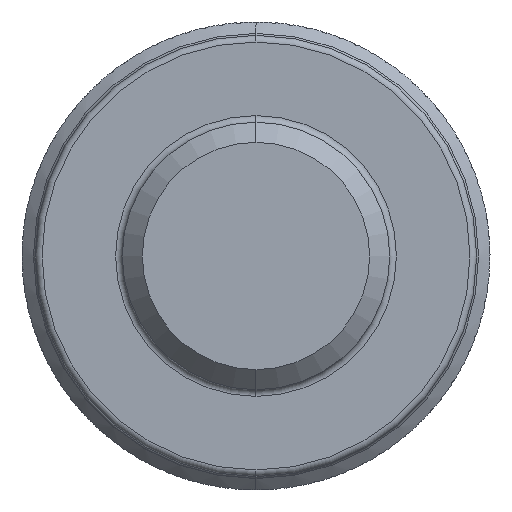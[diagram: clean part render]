
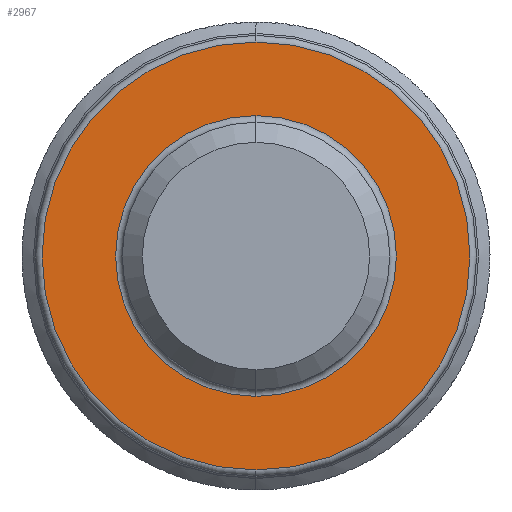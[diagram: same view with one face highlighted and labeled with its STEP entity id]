
A CAD part, front view. The second image highlights one B-rep face of the part: STEP entity #2967.
In plain terms, the highlighted planar face has unit normal (0, -1, 0).
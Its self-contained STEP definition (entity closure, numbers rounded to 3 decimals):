
#384 = EDGE_CURVE ( 'NONE', #10026, #9386, #8313, .T. ) ;
#548 = CARTESIAN_POINT ( 'NONE',  ( 0., -4., 2.1 ) ) ;
#675 = CARTESIAN_POINT ( 'NONE',  ( 0., -4., 0. ) ) ;
#720 = DIRECTION ( 'NONE',  ( 0., -1., 0. ) ) ;
#772 = AXIS2_PLACEMENT_3D ( 'NONE', #5360, #6466, #9738 ) ;
#925 = CARTESIAN_POINT ( 'NONE',  ( 0., -4., 3.2 ) ) ;
#1453 = ORIENTED_EDGE ( 'NONE', *, *, #8948, .T. ) ;
#1481 = CARTESIAN_POINT ( 'NONE',  ( 0., -4., 0. ) ) ;
#1619 = AXIS2_PLACEMENT_3D ( 'NONE', #675, #720, #2986 ) ;
#1812 = VERTEX_POINT ( 'NONE', #5765 ) ;
#2597 = DIRECTION ( 'NONE',  ( 0., -1., 0. ) ) ;
#2967 = ADVANCED_FACE ( 'NONE', ( #10060, #4374 ), #7691, .T. ) ;
#2986 = DIRECTION ( 'NONE',  ( 0., 0., -1. ) ) ;
#3405 = DIRECTION ( 'NONE',  ( 0., 0., -1. ) ) ;
#4374 = FACE_OUTER_BOUND ( 'NONE', #5629, .T. ) ;
#4566 = AXIS2_PLACEMENT_3D ( 'NONE', #5707, #9826, #3405 ) ;
#4880 = DIRECTION ( 'NONE',  ( 0., 0., -1. ) ) ;
#4892 = EDGE_LOOP ( 'NONE', ( #10042, #1453 ) ) ;
#4912 = CIRCLE ( 'NONE', #772, 2.1 ) ;
#5204 = CARTESIAN_POINT ( 'NONE',  ( 0., -4., -3.2 ) ) ;
#5360 = CARTESIAN_POINT ( 'NONE',  ( 0., -4., 0. ) ) ;
#5485 = AXIS2_PLACEMENT_3D ( 'NONE', #7481, #2597, #9205 ) ;
#5553 = ORIENTED_EDGE ( 'NONE', *, *, #384, .T. ) ;
#5629 = EDGE_LOOP ( 'NONE', ( #6392, #5553 ) ) ;
#5704 = VERTEX_POINT ( 'NONE', #548 ) ;
#5707 = CARTESIAN_POINT ( 'NONE',  ( 0., -4., 0. ) ) ;
#5765 = CARTESIAN_POINT ( 'NONE',  ( 0., -4., -2.1 ) ) ;
#6082 = CIRCLE ( 'NONE', #8131, 3.2 ) ;
#6392 = ORIENTED_EDGE ( 'NONE', *, *, #9654, .T. ) ;
#6466 = DIRECTION ( 'NONE',  ( 0., 1., 0. ) ) ;
#7481 = CARTESIAN_POINT ( 'NONE',  ( 2., -4., 0. ) ) ;
#7691 = PLANE ( 'NONE',  #5485 ) ;
#8131 = AXIS2_PLACEMENT_3D ( 'NONE', #1481, #8947, #4880 ) ;
#8148 = CIRCLE ( 'NONE', #4566, 2.1 ) ;
#8313 = CIRCLE ( 'NONE', #1619, 3.2 ) ;
#8539 = EDGE_CURVE ( 'NONE', #1812, #5704, #4912, .T. ) ;
#8947 = DIRECTION ( 'NONE',  ( 0., -1., 0. ) ) ;
#8948 = EDGE_CURVE ( 'NONE', #5704, #1812, #8148, .T. ) ;
#9205 = DIRECTION ( 'NONE',  ( 0., 0., -1. ) ) ;
#9386 = VERTEX_POINT ( 'NONE', #5204 ) ;
#9654 = EDGE_CURVE ( 'NONE', #9386, #10026, #6082, .T. ) ;
#9738 = DIRECTION ( 'NONE',  ( 0., 0., -1. ) ) ;
#9826 = DIRECTION ( 'NONE',  ( 0., 1., 0. ) ) ;
#10026 = VERTEX_POINT ( 'NONE', #925 ) ;
#10042 = ORIENTED_EDGE ( 'NONE', *, *, #8539, .T. ) ;
#10060 = FACE_BOUND ( 'NONE', #4892, .T. ) ;
